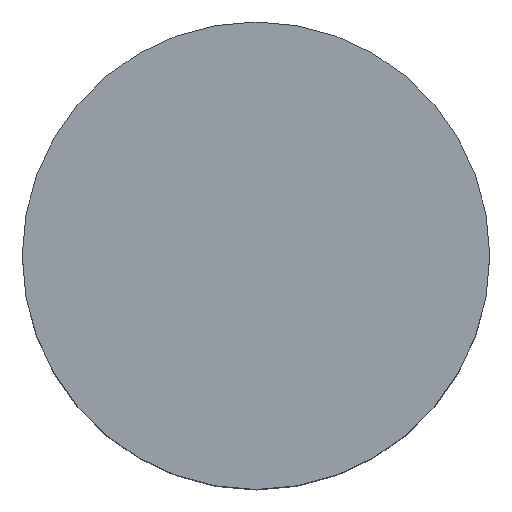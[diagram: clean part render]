
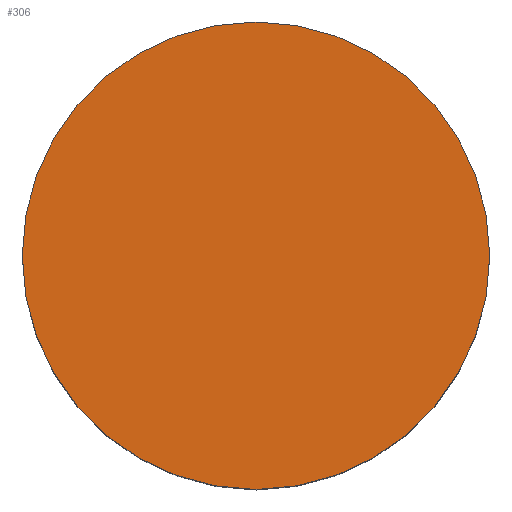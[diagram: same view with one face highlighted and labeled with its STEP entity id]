
A CAD part, top view. The second image highlights one B-rep face of the part: STEP entity #306.
In plain terms, the highlighted planar face has unit normal (0, 0, 1).
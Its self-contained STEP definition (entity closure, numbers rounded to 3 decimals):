
#34=PLANE('',#365);
#79=FACE_OUTER_BOUND('',#116,.T.);
#116=EDGE_LOOP('',(#254));
#152=CIRCLE('',#364,21.);
#179=VERTEX_POINT('',#556);
#208=EDGE_CURVE('',#179,#179,#152,.T.);
#254=ORIENTED_EDGE('',*,*,#208,.T.);
#306=ADVANCED_FACE('',(#79),#34,.T.);
#364=AXIS2_PLACEMENT_3D('',#557,#469,#470);
#365=AXIS2_PLACEMENT_3D('',#558,#471,#472);
#469=DIRECTION('center_axis',(0.,0.,1.));
#470=DIRECTION('ref_axis',(-1.,0.,0.));
#471=DIRECTION('center_axis',(0.,0.,1.));
#472=DIRECTION('ref_axis',(1.,0.,0.));
#556=CARTESIAN_POINT('',(21.,0.,31.));
#557=CARTESIAN_POINT('Origin',(0.,0.,31.));
#558=CARTESIAN_POINT('Origin',(0.,0.,
31.));
